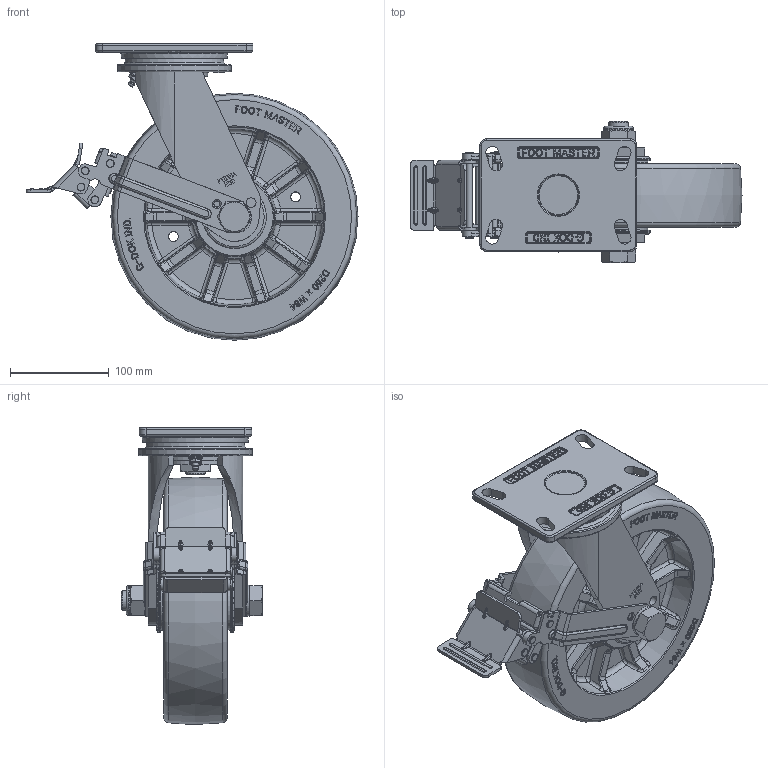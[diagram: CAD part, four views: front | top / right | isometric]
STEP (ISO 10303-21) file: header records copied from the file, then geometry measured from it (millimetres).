
FILE_DESCRIPTION(/* description */ (''),/* implementation_level */ '2;1');
FILE_NAME(/* name */ 'E:\개발도면\GF-SERIES\GF-250\인벤터\홈페이지용 도면-20150310\STEP\GF-250-BSF-MUD-FRN.stp',/* time_stamp */ '2015-03-17T20:03:32+09:00',/* author */ ('장용하'),/* organization */ (''),/* preprocessor_version */ 'ST-DEVELOPER v15.6',/* originating_system */ 'Autodesk Inventor 2015',/* authorisation */ '');
FILE_SCHEMA (('AUTOMOTIVE_DESIGN { 1 0 10303 214 3 1 1 }'));
Products named in the file (1): GF-250-BSF-MUD-FRN
Bounding box: 335.9 x 143 x 299.98 mm (x, y, z)
Volume: 2829402.1 mm3; surface area: 381753.2 mm2
Topology: 4 solids, 9 shells, 2942 faces, 7480 edges, 4642 vertices
Faces by surface type: plane 1180, bspline 798, cylinder 705, torus 168, cone 75, sphere 16
Full cylindrical faces by diameter (mm): 4 x4, 6 x5, 6.2 x18, 7 x2, 8 x8, 9.7 x2, 10 x4, 20 x6, 20.2 x4, 24.9 x2, 30 x1, 34 x2, 43 x2, 59 x1, 64.519 x2, 115 x1
Entity records: 101184 total; most frequent: CARTESIAN_POINT 33027, ORIENTED_EDGE 14572, DIRECTION 12185, EDGE_CURVE 7282, VERTEX_POINT 4607, AXIS2_PLACEMENT_3D 4219, LINE 3747, VECTOR 3747
